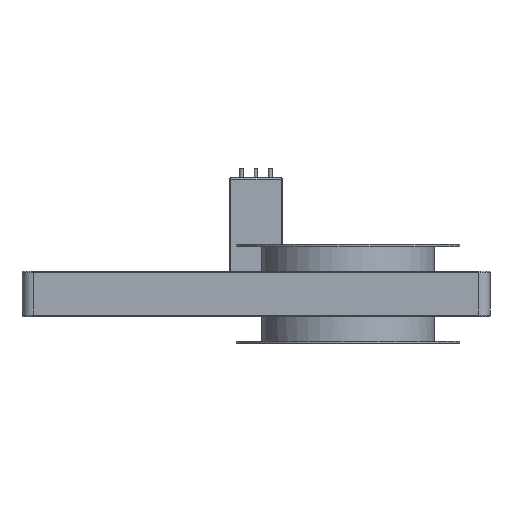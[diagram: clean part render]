
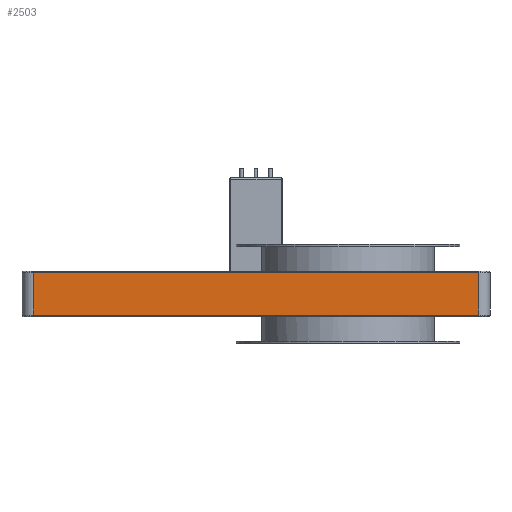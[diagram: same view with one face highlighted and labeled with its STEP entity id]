
A CAD part, front view. The second image highlights one B-rep face of the part: STEP entity #2503.
In plain terms, the highlighted free-form (B-spline) face has degree [1, 1] with [2, 2] control points.
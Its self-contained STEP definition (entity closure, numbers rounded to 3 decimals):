
#2448=CARTESIAN_POINT('',(-415.157,-145.,-28.));
#2449=VERTEX_POINT('',#2448);
#2458=CARTESIAN_POINT('',(-415.157,-145.,28.));
#2459=VERTEX_POINT('',#2458);
#2460=CARTESIAN_POINT('',(-415.157,-145.,-28.));
#2461=CARTESIAN_POINT('',(-415.157,-145.,28.));
#2462=B_SPLINE_CURVE_WITH_KNOTS('',1,(#2460,#2461),.POLYLINE_FORM.,.F.,.U.,(2,2),(0.033,0.967),.UNSPECIFIED.);
#2463=EDGE_CURVE('',#2449,#2459,#2462,.T.);
#2476=CARTESIAN_POINT('',(-415.157,-145.,-30.));
#2477=CARTESIAN_POINT('',(-415.157,-145.,30.));
#2478=CARTESIAN_POINT('',(172.1,-145.,-30.));
#2479=CARTESIAN_POINT('',(172.1,-145.,30.));
#2480=B_SPLINE_SURFACE_WITH_KNOTS('',1,1,((#2476,#2477),(#2478,#2479)),.PLANE_SURF.,.F.,.F.,.U.,(2,2),(2,2),(0.,1.),(0.,1.),.UNSPECIFIED.);
#2481=ORIENTED_EDGE('',*,*,#2463,.F.);
#2482=CARTESIAN_POINT('',(172.1,-145.,-28.));
#2483=VERTEX_POINT('',#2482);
#2484=CARTESIAN_POINT('',(-415.157,-145.,-28.));
#2485=CARTESIAN_POINT('',(172.1,-145.,-28.));
#2486=B_SPLINE_CURVE_WITH_KNOTS('',1,(#2484,#2485),.POLYLINE_FORM.,.F.,.U.,(2,2),(0.,1.),.UNSPECIFIED.);
#2487=EDGE_CURVE('',#2449,#2483,#2486,.T.);
#2488=ORIENTED_EDGE('',*,*,#2487,.T.);
#2489=CARTESIAN_POINT('',(172.1,-145.,28.));
#2490=VERTEX_POINT('',#2489);
#2491=CARTESIAN_POINT('',(172.1,-145.,-28.));
#2492=CARTESIAN_POINT('',(172.1,-145.,28.));
#2493=B_SPLINE_CURVE_WITH_KNOTS('',1,(#2491,#2492),.POLYLINE_FORM.,.F.,.U.,(2,2),(0.033,0.967),.UNSPECIFIED.);
#2494=EDGE_CURVE('',#2483,#2490,#2493,.T.);
#2495=ORIENTED_EDGE('',*,*,#2494,.T.);
#2496=CARTESIAN_POINT('',(-415.157,-145.,28.));
#2497=CARTESIAN_POINT('',(172.1,-145.,28.));
#2498=B_SPLINE_CURVE_WITH_KNOTS('',1,(#2496,#2497),.POLYLINE_FORM.,.F.,.U.,(2,2),(0.,1.),.UNSPECIFIED.);
#2499=EDGE_CURVE('',#2459,#2490,#2498,.T.);
#2500=ORIENTED_EDGE('',*,*,#2499,.F.);
#2501=EDGE_LOOP('',(#2481,#2488,#2495,#2500));
#2502=FACE_OUTER_BOUND('',#2501,.T.);
#2503=ADVANCED_FACE('',(#2502),#2480,.T.);
